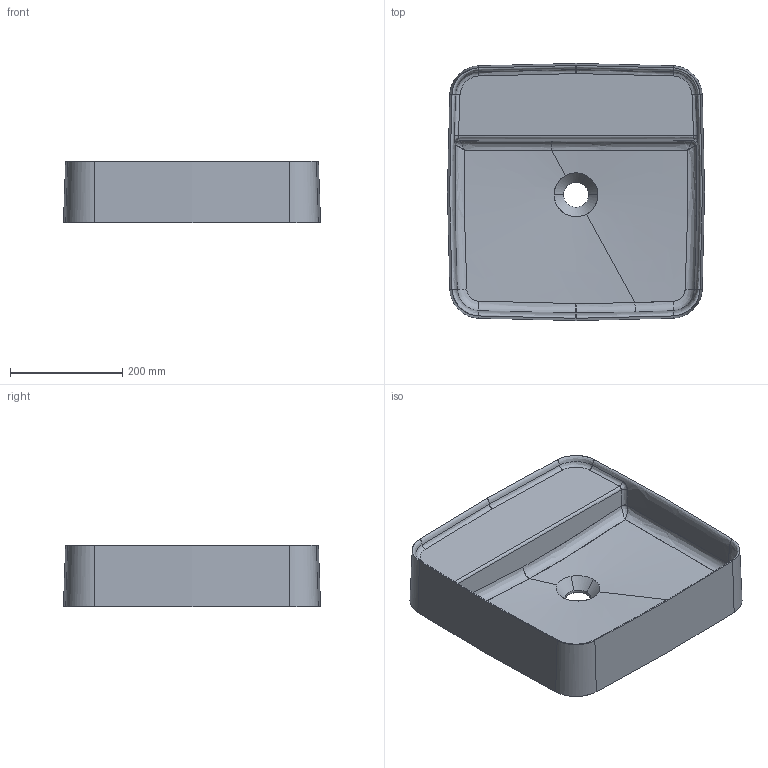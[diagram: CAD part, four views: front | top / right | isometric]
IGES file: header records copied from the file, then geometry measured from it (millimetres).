
Start section: START RECORD GO HERE.
Global section: file name: 7412_45x45 quadro.igs; native system: DASSAULT SYSTEMES CATIA V5 R19 - www.3ds.com; preprocessor: CATIA Version 5 Release 19 SP 5 ; author: gioge; organization: LAPTOP-G94B6G74; date: 20200630.143958; units: millimetre
Bounding box: 457.68 x 457.68 x 110 mm (x, y, z)
Surface area: 772543.6 mm2 (no closed solid volume)
Topology: 0 solids, 0 shells, 89 faces, 445 edges, 443 vertices
Faces by surface type: bspline 54, extrusion 16, revolution 12, plane 7
